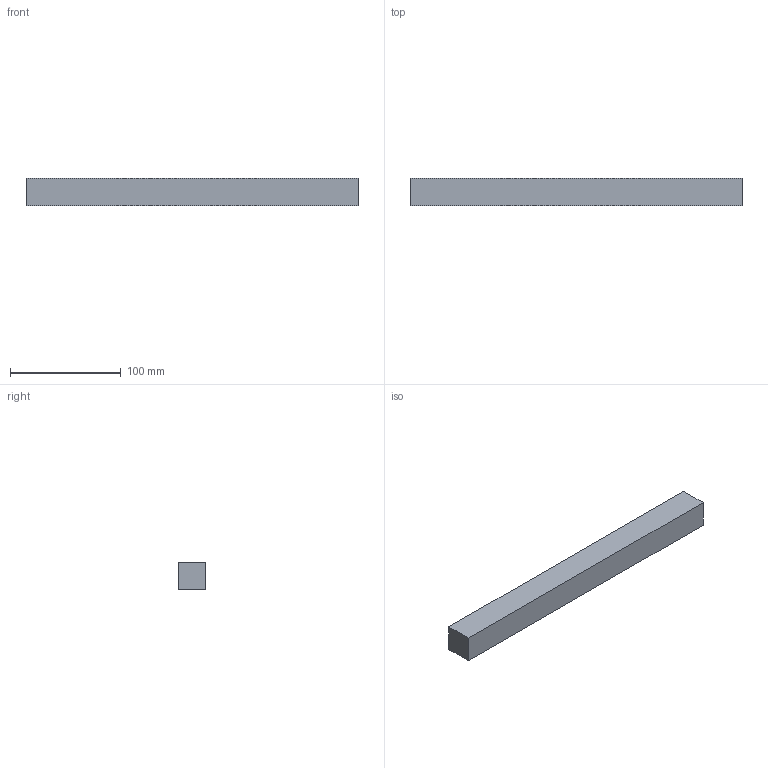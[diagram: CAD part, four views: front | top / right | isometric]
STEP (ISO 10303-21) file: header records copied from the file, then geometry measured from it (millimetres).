
FILE_DESCRIPTION(('CATIA V5 STEP Exchange'),'2;1');
FILE_NAME('C:\Users\Utente\Desktop\3D files G405\G40525300.stp','2020-04-22T09:19:59+00:00',('none'),('none'),'CATIA Version 5 Release 20 GA (IN-10)','CATIA V5 STEP AP203','none');
FILE_SCHEMA(('CONFIG_CONTROL_DESIGN'));
Length unit declared in the file: millimetre
Products named in the file (1): G40525300
Bounding box: 300 x 25 x 25 mm (x, y, z)
Surface area: 39602.8 mm2 (no closed solid volume)
Topology: 0 solids, 942 shells, 942 faces, 4014 edges, 3568 vertices
Faces by surface type: revolution 542, cylinder 296, plane 104
Entity records: 43792 total; most frequent: CARTESIAN_POINT 14199, DIRECTION 4666, ORIENTED_EDGE 3568, EDGE_CURVE 3568, VERTEX_POINT 3568, AXIS2_PLACEMENT_3D 2025, VECTOR 1700, LINE 1700
